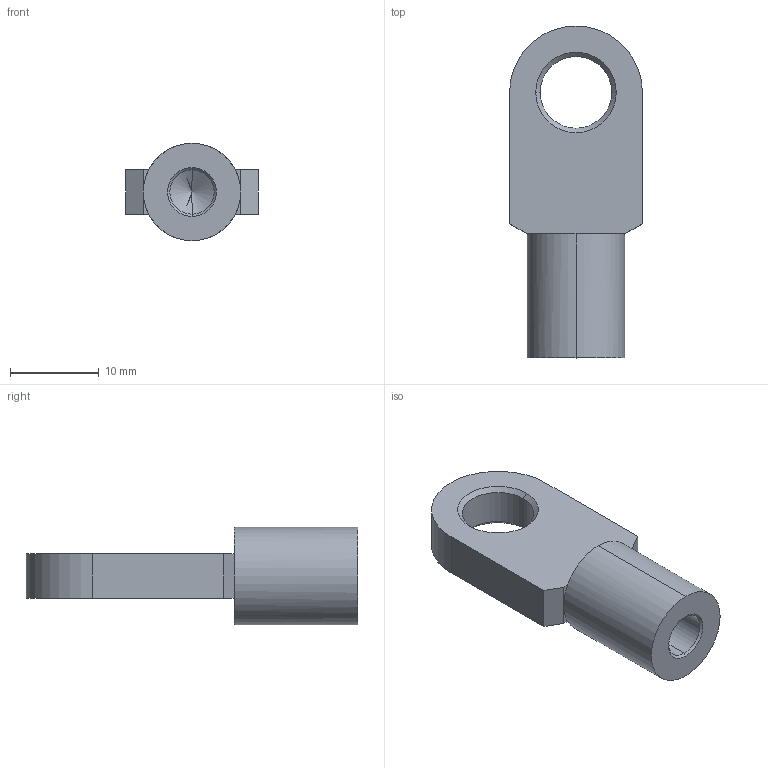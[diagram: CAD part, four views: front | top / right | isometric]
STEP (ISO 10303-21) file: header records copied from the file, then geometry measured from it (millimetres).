
FILE_DESCRIPTION (( 'STEP AP214' ), '1' );
FILE_NAME ('18.06E2STL30.STEP', '2017-11-14T09:38:20', ( '' ), ( '' ), 'SwSTEP 2.0', 'SolidWorks 2016', '' );
FILE_SCHEMA (( 'AUTOMOTIVE_DESIGN' ));
Length unit declared in the file: millimetre
Products named in the file (1): 18.06E2STL30
Bounding box: 15 x 37.5 x 11 mm (x, y, z)
Volume: 2436.7 mm3; surface area: 1774.7 mm2
Topology: 1 solids, 1 shells, 28 faces, 64 edges, 37 vertices
Faces by surface type: plane 13, cone 8, cylinder 7
Entity records: 806 total; most frequent: DIRECTION 146, CARTESIAN_POINT 128, ORIENTED_EDGE 124, EDGE_CURVE 62, AXIS2_PLACEMENT_3D 55, VERTEX_POINT 37, VECTOR 36, LINE 36
